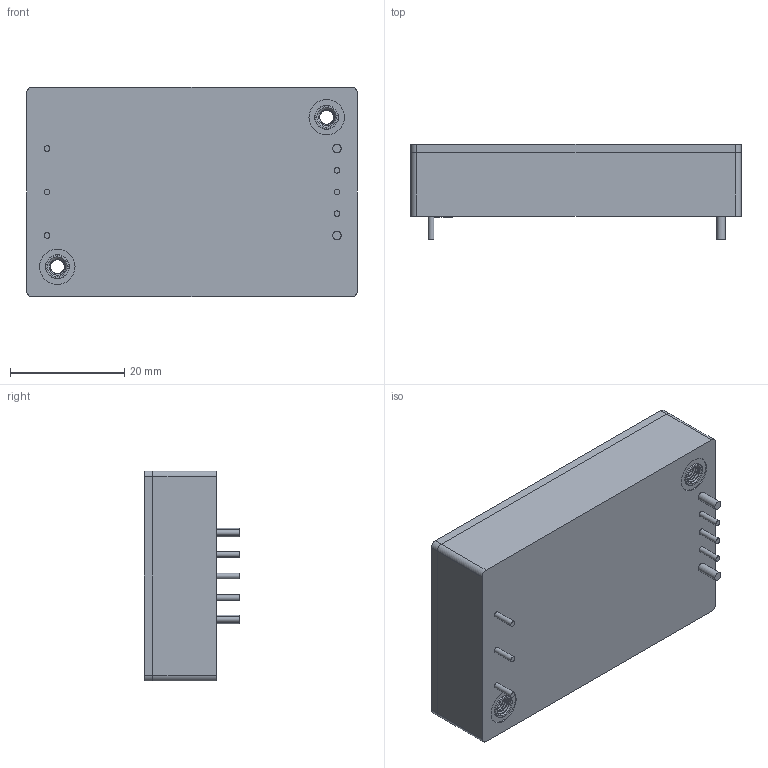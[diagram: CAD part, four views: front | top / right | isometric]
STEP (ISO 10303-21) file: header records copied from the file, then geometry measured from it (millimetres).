
FILE_DESCRIPTION(/* description */ (''),/* implementation_level */ '2;1');
FILE_NAME(/* name */ '\\192.168.1.249\ctc\上下蓋圖面查詢表\Data Sheet圖面\客戶別\(M)2TE-496_\X2\660E7DEF\X0\\DCWR\塑膠外殼\MRQ150WR3-(C3-054-00)\PACKAGE\REV-01\MRQ150WR3.stp',/* time_stamp */ '2024-04-26T16:24:37+08:00',/* author */ ('ching'),/* organization */ (''),/* preprocessor_version */ 'ST-DEVELOPER v16.5',/* originating_system */ 'Autodesk Inventor 2017',/* authorisation */ '');
FILE_SCHEMA (('AUTOMOTIVE_DESIGN { 1 0 10303 214 3 1 1 }'));
Length unit declared in the file: millimetre
Products named in the file (1): N2105
Bounding box: 57.9 x 16.7 x 36.8 mm (x, y, z)
Volume: 26703.6 mm3; surface area: 11953.7 mm2
Topology: 12 solids, 12 shells, 70 faces, 132 edges, 88 vertices
Faces by surface type: plane 34, cylinder 26, bspline 4, cone 4, torus 2
Full cylindrical faces by diameter (mm): 1 x6, 1.5 x2, 4.2 x6, 6.2 x2
Entity records: 5751 total; most frequent: CARTESIAN_POINT 4373, DIRECTION 282, ORIENTED_EDGE 208, AXIS2_PLACEMENT_3D 125, EDGE_LOOP 106, EDGE_CURVE 104, VERTEX_POINT 82, FACE_OUTER_BOUND 70
